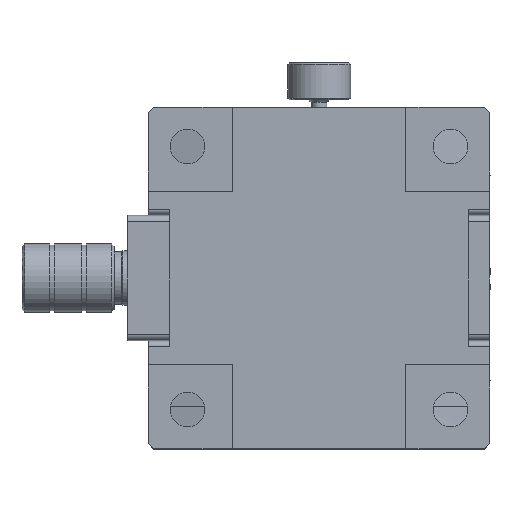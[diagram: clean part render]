
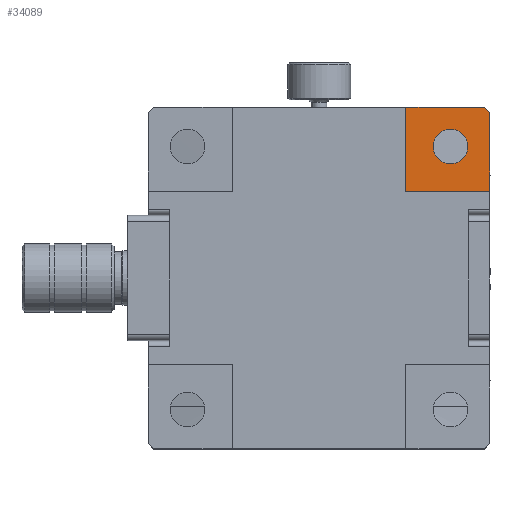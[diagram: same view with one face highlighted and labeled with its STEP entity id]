
A CAD part, top view. The second image highlights one B-rep face of the part: STEP entity #34089.
In plain terms, the highlighted planar face has unit normal (0, 0, 1).
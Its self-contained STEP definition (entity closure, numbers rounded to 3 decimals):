
#2230 = DIRECTION ( 'NONE',  ( -1., 0., 0. ) ) ;
#3123 = EDGE_CURVE ( 'NONE', #12073, #17657, #24260, .T. ) ;
#4969 = VECTOR ( 'NONE', #31828, 1000. ) ;
#6920 = DIRECTION ( 'NONE',  ( -0.707, 0.707, 0. ) ) ;
#7316 = DIRECTION ( 'NONE',  ( 0., 0., -1. ) ) ;
#7665 = CARTESIAN_POINT ( 'NONE',  ( 89.695, 1.167, 46.465 ) ) ;
#7974 = DIRECTION ( 'NONE',  ( 0., 1., 0. ) ) ;
#8433 = VECTOR ( 'NONE', #35745, 1000. ) ;
#8611 = CARTESIAN_POINT ( 'NONE',  ( 88.695, 17.167, 46.465 ) ) ;
#9010 = AXIS2_PLACEMENT_3D ( 'NONE', #24839, #35585, #21923 ) ;
#10066 = PLANE ( 'NONE',  #9010 ) ;
#10149 = ORIENTED_EDGE ( 'NONE', *, *, #30048, .T. ) ;
#10266 = ORIENTED_EDGE ( 'NONE', *, *, #3123, .T. ) ;
#11103 = CARTESIAN_POINT ( 'NONE',  ( 89.695, -47.833, 46.465 ) ) ;
#12073 = VERTEX_POINT ( 'NONE', #12139 ) ;
#12139 = CARTESIAN_POINT ( 'NONE',  ( 89.695, 16.167, 46.465 ) ) ;
#12620 = EDGE_LOOP ( 'NONE', ( #30915, #10266, #22649, #10149, #16947 ) ) ;
#13179 = EDGE_CURVE ( 'NONE', #20202, #21337, #25823, .T. ) ;
#13837 = LINE ( 'NONE', #11103, #35438 ) ;
#16217 = EDGE_CURVE ( 'NONE', #31960, #17657, #32749, .T. ) ;
#16947 = ORIENTED_EDGE ( 'NONE', *, *, #13179, .T. ) ;
#17657 = VERTEX_POINT ( 'NONE', #8611 ) ;
#18770 = CIRCLE ( 'NONE', #32131, 3.3 ) ;
#18851 = EDGE_CURVE ( 'NONE', #21337, #12073, #13837, .T. ) ;
#18863 = CARTESIAN_POINT ( 'NONE',  ( 73.695, 1.167, 46.465 ) ) ;
#18977 = LINE ( 'NONE', #35557, #8433 ) ;
#20202 = VERTEX_POINT ( 'NONE', #18863 ) ;
#20819 = FACE_BOUND ( 'NONE', #32763, .T. ) ;
#21337 = VERTEX_POINT ( 'NONE', #7665 ) ;
#21366 = CARTESIAN_POINT ( 'NONE',  ( 82.195, 9.667, 46.465 ) ) ;
#21923 = DIRECTION ( 'NONE',  ( 1., 0., 0. ) ) ;
#22360 = DIRECTION ( 'NONE',  ( 1., 0., 0. ) ) ;
#22649 = ORIENTED_EDGE ( 'NONE', *, *, #16217, .F. ) ;
#22666 = CARTESIAN_POINT ( 'NONE',  ( 73.695, 17.167, 46.465 ) ) ;
#24260 = LINE ( 'NONE', #26266, #26168 ) ;
#24839 = CARTESIAN_POINT ( 'NONE',  ( 24.695, -47.833, 46.465 ) ) ;
#24948 = EDGE_CURVE ( 'NONE', #35290, #35290, #18770, .T. ) ;
#25823 = LINE ( 'NONE', #28723, #4969 ) ;
#26168 = VECTOR ( 'NONE', #6920, 1000. ) ;
#26266 = CARTESIAN_POINT ( 'NONE',  ( 89.195, 16.667, 46.465 ) ) ;
#26667 = FACE_OUTER_BOUND ( 'NONE', #12620, .T. ) ;
#26906 = CARTESIAN_POINT ( 'NONE',  ( 78.895, 9.667, 46.465 ) ) ;
#28723 = CARTESIAN_POINT ( 'NONE',  ( 89.695, 1.167, 46.465 ) ) ;
#30048 = EDGE_CURVE ( 'NONE', #31960, #20202, #18977, .T. ) ;
#30369 = ORIENTED_EDGE ( 'NONE', *, *, #24948, .T. ) ;
#30915 = ORIENTED_EDGE ( 'NONE', *, *, #18851, .T. ) ;
#31828 = DIRECTION ( 'NONE',  ( 1., 0., 0. ) ) ;
#31960 = VERTEX_POINT ( 'NONE', #22666 ) ;
#32131 = AXIS2_PLACEMENT_3D ( 'NONE', #21366, #7316, #2230 ) ;
#32749 = LINE ( 'NONE', #33285, #35356 ) ;
#32763 = EDGE_LOOP ( 'NONE', ( #30369 ) ) ;
#33285 = CARTESIAN_POINT ( 'NONE',  ( 24.695, 17.167, 46.465 ) ) ;
#34089 = ADVANCED_FACE ( 'NONE', ( #20819, #26667 ), #10066, .T. ) ;
#35290 = VERTEX_POINT ( 'NONE', #26906 ) ;
#35356 = VECTOR ( 'NONE', #22360, 1000. ) ;
#35438 = VECTOR ( 'NONE', #7974, 1000. ) ;
#35557 = CARTESIAN_POINT ( 'NONE',  ( 73.695, 17.167, 46.465 ) ) ;
#35585 = DIRECTION ( 'NONE',  ( 0., 0., 1. ) ) ;
#35745 = DIRECTION ( 'NONE',  ( 0., -1., 0. ) ) ;
